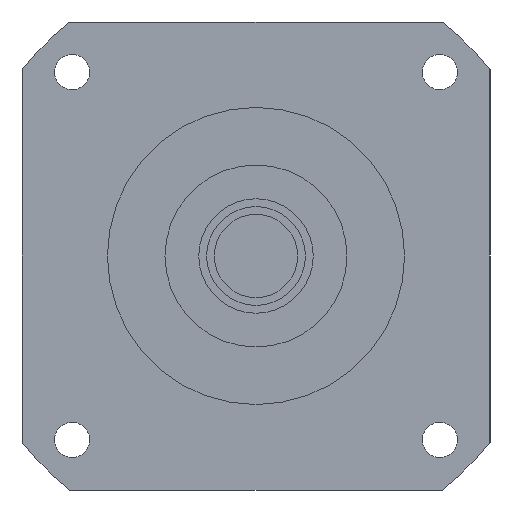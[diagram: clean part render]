
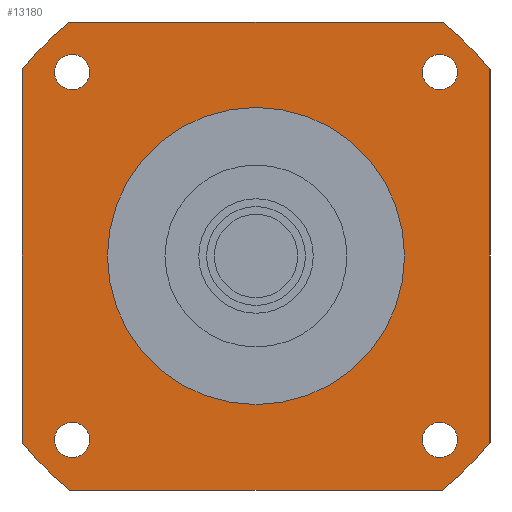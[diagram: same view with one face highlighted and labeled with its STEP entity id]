
A CAD part, left-side view. The second image highlights one B-rep face of the part: STEP entity #13180.
In plain terms, the highlighted planar face has unit normal (-1, 0, 0) as drawn and (0, 0, -1) by its records, which use the part's own axes.
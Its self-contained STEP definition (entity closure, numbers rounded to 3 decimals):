
#10510=CARTESIAN_POINT('',(-71.589,90.,-91.7));
#10520=VERTEX_POINT('',#10510);
#10700=CARTESIAN_POINT('',(-90.,71.589,-91.7));
#10710=VERTEX_POINT('',#10700);
#10740=CARTESIAN_POINT('',(0.,0.,
-91.7));
#10750=DIRECTION('',(0.,0.,-1.));
#10760=DIRECTION('',(1.,0.,0.));
#10770=AXIS2_PLACEMENT_3D('',#10740,#10750,#10760);
#10780=CIRCLE('',#10770,115.);
#10790=EDGE_CURVE('',#10710,#10520,#10780,.T.);
#11590=CARTESIAN_POINT('',(57.15,0.,-91.7));
#11600=VERTEX_POINT('',#11590);
#11630=CARTESIAN_POINT('',(0.,0.,
-91.7));
#11640=DIRECTION('',(0.,0.,1.));
#11650=DIRECTION('',(0.,1.,0.));
#11660=AXIS2_PLACEMENT_3D('',#11630,#11640,#11650);
#11670=CIRCLE('',#11660,57.15);
#11680=CARTESIAN_POINT('',(0.,57.15,-91.7));
#11690=VERTEX_POINT('',#11680);
#11700=EDGE_CURVE('',#11600,#11690,#11670,.T.);
#11720=CARTESIAN_POINT('',(-57.15,0.,-91.7));
#11730=VERTEX_POINT('',#11720);
#11740=EDGE_CURVE('',#11690,#11730,#11670,.T.);
#11870=CARTESIAN_POINT('',(90.,90.,-91.7));
#11880=DIRECTION('',(0.,0.,-1.));
#11890=DIRECTION('',(1.,0.,0.));
#11900=AXIS2_PLACEMENT_3D('',#11870,#11880,#11890);
#11910=PLANE('',#11900);
#11920=CARTESIAN_POINT('',(-70.711,-70.711,-91.7));
#11930=DIRECTION('',(0.,0.,-1.));
#11940=DIRECTION('',(0.,-1.,0.));
#11950=AXIS2_PLACEMENT_3D('',#11920,#11930,#11940);
#11960=CIRCLE('',#11950,6.75);
#11970=CARTESIAN_POINT('',(-70.711,-77.461,-91.7));
#11980=VERTEX_POINT('',#11970);
#11990=CARTESIAN_POINT('',(-70.711,-63.961,-91.7));
#12000=VERTEX_POINT('',#11990);
#12010=EDGE_CURVE('',#11980,#12000,#11960,.T.);
#12020=ORIENTED_EDGE('',*,*,#12010,.F.);
#12030=EDGE_CURVE('',#12000,#11980,#11960,.T.);
#12040=ORIENTED_EDGE('',*,*,#12030,.F.);
#12050=EDGE_LOOP('',(#12040,#12020));
#12060=FACE_BOUND('',#12050,.T.);
#12070=CARTESIAN_POINT('',(-70.711,70.711,-91.7));
#12080=DIRECTION('',(0.,0.,-1.));
#12090=DIRECTION('',(-1.,0.,0.));
#12100=AXIS2_PLACEMENT_3D('',#12070,#12080,#12090);
#12110=CIRCLE('',#12100,6.75);
#12120=CARTESIAN_POINT('',(-77.461,70.711,-91.7));
#12130=VERTEX_POINT('',#12120);
#12140=CARTESIAN_POINT('',(-63.961,70.711,-91.7));
#12150=VERTEX_POINT('',#12140);
#12160=EDGE_CURVE('',#12130,#12150,#12110,.T.);
#12170=ORIENTED_EDGE('',*,*,#12160,.F.);
#12180=EDGE_CURVE('',#12150,#12130,#12110,.T.);
#12190=ORIENTED_EDGE('',*,*,#12180,.F.);
#12200=EDGE_LOOP('',(#12190,#12170));
#12210=FACE_BOUND('',#12200,.T.);
#12220=CARTESIAN_POINT('',(70.711,70.711,-91.7));
#12230=DIRECTION('',(0.,0.,-1.));
#12240=DIRECTION('',(0.,1.,0.));
#12250=AXIS2_PLACEMENT_3D('',#12220,#12230,#12240);
#12260=CIRCLE('',#12250,6.75);
#12270=CARTESIAN_POINT('',(70.711,77.461,-91.7));
#12280=VERTEX_POINT('',#12270);
#12290=CARTESIAN_POINT('',(70.711,63.961,-91.7));
#12300=VERTEX_POINT('',#12290);
#12310=EDGE_CURVE('',#12280,#12300,#12260,.T.);
#12320=ORIENTED_EDGE('',*,*,#12310,.F.);
#12330=EDGE_CURVE('',#12300,#12280,#12260,.T.);
#12340=ORIENTED_EDGE('',*,*,#12330,.F.);
#12350=EDGE_LOOP('',(#12340,#12320));
#12360=FACE_BOUND('',#12350,.T.);
#12370=EDGE_CURVE('',#11730,#11600,#11670,.T.);
#12380=ORIENTED_EDGE('',*,*,#12370,.T.);
#12390=ORIENTED_EDGE('',*,*,#11740,.T.);
#12400=ORIENTED_EDGE('',*,*,#11700,.T.);
#12410=EDGE_LOOP('',(#12400,#12390,#12380));
#12420=FACE_BOUND('',#12410,.T.);
#12430=CARTESIAN_POINT('',(-90.,90.,-91.7));
#12440=DIRECTION('',(1.,0.,0.));
#12450=VECTOR('',#12440,1000.);
#12460=LINE('',#12430,#12450);
#12470=CARTESIAN_POINT('',(71.589,90.,-91.7));
#12480=VERTEX_POINT('',#12470);
#12490=EDGE_CURVE('',#10520,#12480,#12460,.T.);
#12500=ORIENTED_EDGE('',*,*,#12490,.T.);
#12510=ORIENTED_EDGE('',*,*,#10790,.T.);
#12520=CARTESIAN_POINT('',(-90.,-90.,-91.7));
#12530=DIRECTION('',(0.,1.,0.));
#12540=VECTOR('',#12530,1000.);
#12550=LINE('',#12520,#12540);
#12560=CARTESIAN_POINT('',(-90.,-71.589,-91.7));
#12570=VERTEX_POINT('',#12560);
#12580=EDGE_CURVE('',#12570,#10710,#12550,.T.);
#12590=ORIENTED_EDGE('',*,*,#12580,.T.);
#12600=CARTESIAN_POINT('',(0.,0.,
-91.7));
#12610=DIRECTION('',(0.,0.,-1.));
#12620=DIRECTION('',(1.,0.,0.));
#12630=AXIS2_PLACEMENT_3D('',#12600,#12610,#12620);
#12640=CIRCLE('',#12630,115.);
#12650=CARTESIAN_POINT('',(-71.589,-90.,-91.7));
#12660=VERTEX_POINT('',#12650);
#12670=EDGE_CURVE('',#12660,#12570,#12640,.T.);
#12680=ORIENTED_EDGE('',*,*,#12670,.T.);
#12690=CARTESIAN_POINT('',(90.,-90.,-91.7));
#12700=DIRECTION('',(-1.,0.,0.));
#12710=VECTOR('',#12700,1000.);
#12720=LINE('',#12690,#12710);
#12730=CARTESIAN_POINT('',(71.589,-90.,-91.7));
#12740=VERTEX_POINT('',#12730);
#12750=EDGE_CURVE('',#12740,#12660,#12720,.T.);
#12760=ORIENTED_EDGE('',*,*,#12750,.T.);
#12770=CARTESIAN_POINT('',(0.,0.,
-91.7));
#12780=DIRECTION('',(0.,0.,-1.));
#12790=DIRECTION('',(1.,0.,0.));
#12800=AXIS2_PLACEMENT_3D('',#12770,#12780,#12790);
#12810=CIRCLE('',#12800,115.);
#12820=CARTESIAN_POINT('',(90.,-71.589,-91.7));
#12830=VERTEX_POINT('',#12820);
#12840=EDGE_CURVE('',#12830,#12740,#12810,.T.);
#12850=ORIENTED_EDGE('',*,*,#12840,.T.);
#12860=CARTESIAN_POINT('',(90.,90.,-91.7));
#12870=DIRECTION('',(0.,-1.,0.));
#12880=VECTOR('',#12870,1000.);
#12890=LINE('',#12860,#12880);
#12900=CARTESIAN_POINT('',(90.,71.589,-91.7));
#12910=VERTEX_POINT('',#12900);
#12920=EDGE_CURVE('',#12910,#12830,#12890,.T.);
#12930=ORIENTED_EDGE('',*,*,#12920,.T.);
#12940=CARTESIAN_POINT('',(0.,0.,
-91.7));
#12950=DIRECTION('',(0.,0.,-1.));
#12960=DIRECTION('',(1.,0.,0.));
#12970=AXIS2_PLACEMENT_3D('',#12940,#12950,#12960);
#12980=CIRCLE('',#12970,115.);
#12990=EDGE_CURVE('',#12480,#12910,#12980,.T.);
#13000=ORIENTED_EDGE('',*,*,#12990,.T.);
#13010=EDGE_LOOP('',(#13000,#12930,#12850,#12760,#12680,#12590,#12510,
#12500));
#13020=FACE_OUTER_BOUND('',#13010,.T.);
#13030=CARTESIAN_POINT('',(70.711,-70.711,-91.7));
#13040=DIRECTION('',(0.,0.,-1.));
#13050=DIRECTION('',(1.,0.,0.));
#13060=AXIS2_PLACEMENT_3D('',#13030,#13040,#13050);
#13070=CIRCLE('',#13060,6.75);
#13080=CARTESIAN_POINT('',(77.461,-70.711,-91.7));
#13090=VERTEX_POINT('',#13080);
#13100=CARTESIAN_POINT('',(63.961,-70.711,-91.7));
#13110=VERTEX_POINT('',#13100);
#13120=EDGE_CURVE('',#13090,#13110,#13070,.T.);
#13130=ORIENTED_EDGE('',*,*,#13120,.F.);
#13140=EDGE_CURVE('',#13110,#13090,#13070,.T.);
#13150=ORIENTED_EDGE('',*,*,#13140,.F.);
#13160=EDGE_LOOP('',(#13150,#13130));
#13170=FACE_BOUND('',#13160,.T.);
#13180=ADVANCED_FACE('',(#12060,#12210,#12360,#12420,#13020,#13170),
#11910,.T.);
